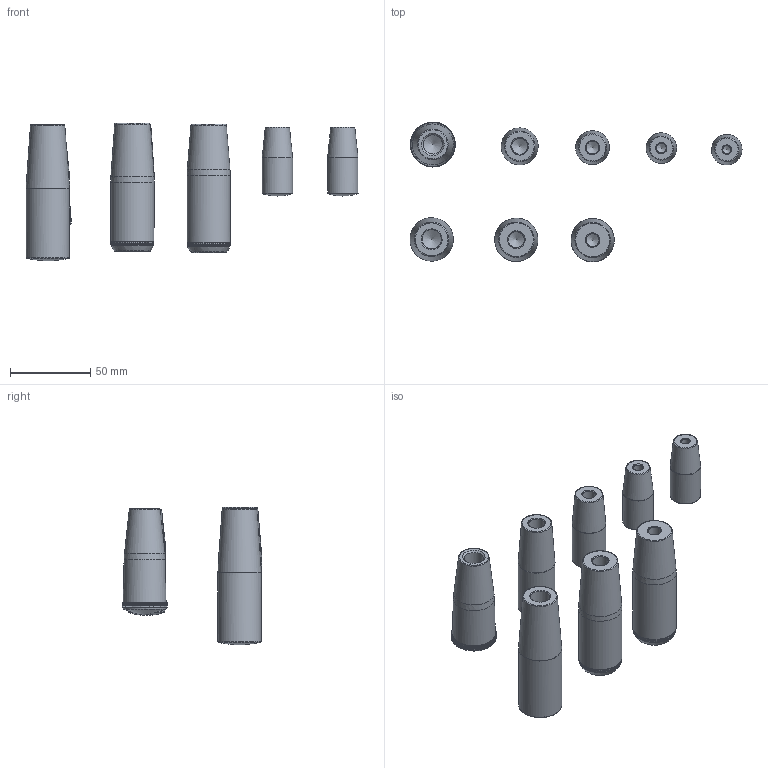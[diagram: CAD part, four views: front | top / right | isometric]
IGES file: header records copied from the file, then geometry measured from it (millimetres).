
Global section: file name: DR_XOG_M; native system: Autodesk Inventor 2015; preprocessor: unknown; author: user; date: 20190104.173852; units: millimetre
Bounding box: 207.21 x 87.18 x 85.75 mm (x, y, z)
Volume: 211324.4 mm3; surface area: 47036.2 mm2
Topology: 8 solids, 8 shells, 1118 faces, 3033 edges, 1928 vertices
Faces by surface type: bspline 1118
